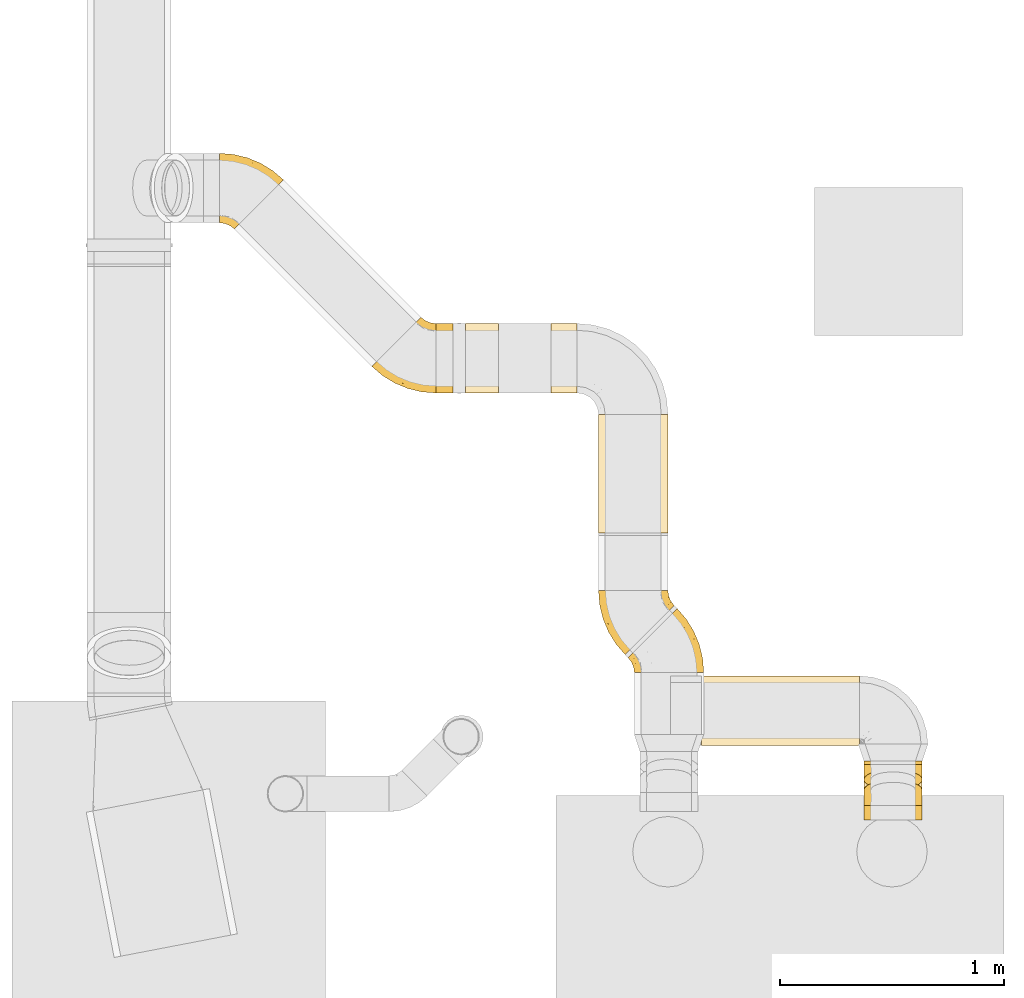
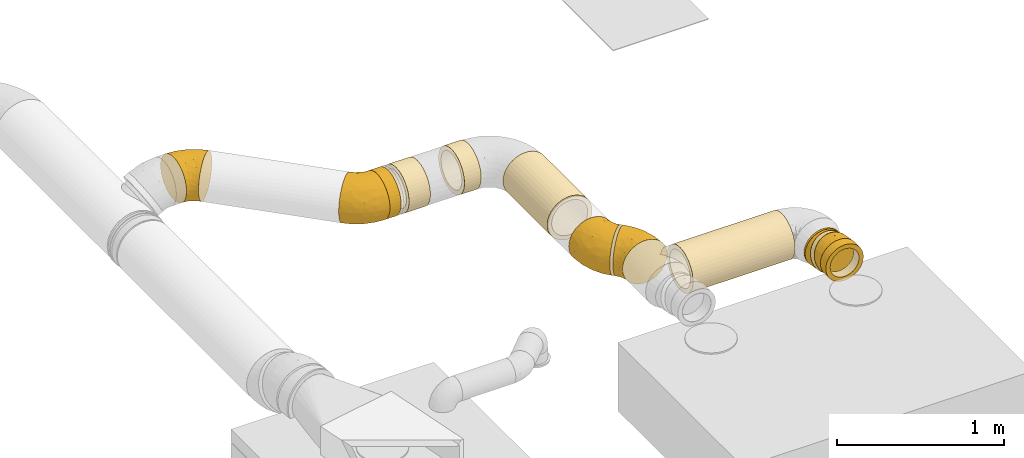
# One storey, part 2 of 21: 14 coverings.
"""IFC2X3 building model written with IfcOpenShell, lengths in millimetres."""

import ifcopenshell
import ifcopenshell.guid

model = None  # the IFC model being written
_history = None  # IfcOwnerHistory: only IFC2X3 demands one
_inside = {}  # id of a spatial element -> (the spatial element, [elements in it])
_under = {}  # id of a project, library or spatial element -> (it, [spatial elements below it])
_declared = {}  # id of a project -> (the project, [libraries it declares])
_typed = {}  # id of a type object -> (the type object, [elements of that type])
_made_of = {}  # id of a material, layer set ... -> (it, [elements and type objects made of it])


def new_model(schema):
    """Start an empty IFC model of exactly this schema.

    Asked for "IFC4X3", IfcOpenShell would pick the latest addendum, in which some entities
    have other attributes; the version numbers below select the first issue.
    IFC2X3 requires an IfcOwnerHistory on every rooted entity: one is made here for all.
    """
    global model, _history
    if schema == "IFC4X3":
        model = ifcopenshell.file(schema_version=(4, 3, 0, 0))
    else:
        model = ifcopenshell.file(schema=schema)
    _inside.clear()
    _under.clear()
    _declared.clear()
    _typed.clear()
    _made_of.clear()
    _history = None
    if model.schema == "IFC2X3":
        org = make("IfcOrganization", Name="unknown")
        user = make(
            "IfcPersonAndOrganization",
            ThePerson=make("IfcPerson", FamilyName="unknown"),
            TheOrganization=org,
        )
        app = make(
            "IfcApplication",
            ApplicationDeveloper=org,
            Version="unknown",
            ApplicationFullName="unknown",
            ApplicationIdentifier="unknown",
        )
        _history = make(
            "IfcOwnerHistory",
            OwningUser=user,
            OwningApplication=app,
            ChangeAction="ADDED",
            CreationDate=0,
        )
    return model


def make(cls, **values):
    """One entity of the class cls with the attributes given. An attribute that is None is left unset."""
    return model.create_entity(
        cls, **{name: value for name, value in values.items() if value is not None}
    )


def entity(cls, *values):
    """Any entity or typed value of the class cls, its attributes in the order of the schema. None: left unset."""
    e = model.create_entity(cls)
    for i, value in enumerate(values):
        if value is not None:
            e[i] = value
    return e


def rooted(cls, **values):
    """An entity with a GlobalId (a new one), such as an element, a storey or a relation."""
    return make(cls, GlobalId=ifcopenshell.guid.new(), OwnerHistory=_history, **values)


def si_unit(unit_type, name, prefix=None):
    """IfcSIUnit, for example si_unit("LENGTHUNIT", "METRE", prefix="MILLI")."""
    return make("IfcSIUnit", UnitType=unit_type, Prefix=prefix, Name=name)


def converted_unit(unit_type, name, factor, base, dimensions=None, offset=None):
    """IfcConversionBasedUnit, such as the inch: factor (a typed value) times the base unit."""
    return make(
        "IfcConversionBasedUnit"
        if offset is None
        else "IfcConversionBasedUnitWithOffset",
        ConversionOffset=offset,
        Dimensions=None
        if dimensions is None
        else entity("IfcDimensionalExponents", *dimensions),
        UnitType=unit_type,
        Name=name,
        ConversionFactor=make(
            "IfcMeasureWithUnit", ValueComponent=factor, UnitComponent=base
        ),
    )


def derived_unit(unit_type, elements):
    """IfcDerivedUnit: a product of units, each with its exponent."""
    return make(
        "IfcDerivedUnit",
        Elements=[
            make("IfcDerivedUnitElement", Unit=unit, Exponent=power)
            for unit, power in elements
        ],
        UnitType=unit_type,
    )


def assignment(units):
    """IfcUnitAssignment: the units of a project."""
    return None if units is None else make("IfcUnitAssignment", Units=units)


def point(xyz):
    """IfcCartesianPoint."""
    return None if xyz is None else make("IfcCartesianPoint", Coordinates=xyz)


def direction(xyz):
    """IfcDirection."""
    return None if xyz is None else make("IfcDirection", DirectionRatios=xyz)


def frame(location, z_axis=None, x_axis=None):
    """IfcAxis2Placement3D, a coordinate frame: its origin and axes. An axis left out is left unset."""
    return make(
        "IfcAxis2Placement3D",
        Location=point(location),
        Axis=direction(z_axis),
        RefDirection=direction(x_axis),
    )


def frame_2d(location, x_axis=None):
    """IfcAxis2Placement2D, a coordinate frame in the plane: its origin and x axis."""
    return make(
        "IfcAxis2Placement2D", Location=point(location), RefDirection=direction(x_axis)
    )


def origin_with_axes():
    """The frame at (0, 0, 0) with the z axis (0, 0, 1) and the x axis (1, 0, 0) written out."""
    return frame((0.0, 0.0, 0.0), z_axis=(0.0, 0.0, 1.0), x_axis=(1.0, 0.0, 0.0))


def origin_2d_with_axis():
    """The frame at (0, 0) in the plane with the x axis (1, 0) written out."""
    return frame_2d((0.0, 0.0), x_axis=(1.0, 0.0))


def place(relative_to, where):
    """IfcLocalPlacement: puts the frame where relative to a parent placement (None: the world)."""
    return make(
        "IfcLocalPlacement", PlacementRelTo=relative_to, RelativePlacement=where
    )


def context(
    kind, dimensions, precision=None, world=None, true_north=None, identifier=None
):
    """IfcGeometricRepresentationContext, for example the 3D "Model" context."""
    return make(
        "IfcGeometricRepresentationContext",
        ContextIdentifier=identifier,
        ContextType=kind,
        CoordinateSpaceDimension=dimensions,
        Precision=precision,
        WorldCoordinateSystem=world,
        TrueNorth=true_north,
    )


def subcontext(parent, identifier, kind, view, scale=None):
    """IfcGeometricRepresentationSubContext, for example "Body" below "Model"."""
    return make(
        "IfcGeometricRepresentationSubContext",
        ContextIdentifier=identifier,
        ContextType=kind,
        ParentContext=parent,
        TargetScale=scale,
        TargetView=view,
    )


def project(units=None, contexts=None):
    """IfcProject with its units and contexts."""
    return rooted(
        "IfcProject",
        Name="project",
        RepresentationContexts=contexts,
        UnitsInContext=assignment(units),
    )


def spatial(cls, under=None, at=None, **own):
    """A site, building, storey or space (cls), placed at a placement, below another one or the project."""
    s = rooted(cls, ObjectPlacement=at, **own)
    if under is not None:
        _under.setdefault(under.id(), (under, []))[1].append(s)
    return s


def profile(cls, at=None, kind="AREA", **sizes):
    """A parametric profile (cls). Its sizes go by their IFC names, for example OverallWidth=200.0."""
    return make(cls, ProfileType=kind, Position=at, **sizes)


def hollow_circle(**sizes):
    """IfcCircleHollowProfileDef."""
    return profile("IfcCircleHollowProfileDef", **sizes)


def extrude(swept, where, along, depth):
    """IfcExtrudedAreaSolid: the profile swept, set in the frame where, extruded along a direction by depth."""
    return make(
        "IfcExtrudedAreaSolid",
        SweptArea=swept,
        Position=where,
        ExtrudedDirection=direction(along),
        Depth=depth,
    )


def faces_of(points, faces, orient=None, outer=None):
    """IfcFace entities. A face is a list of loops; a loop is a list of indices into points, from 0.

    orient and outer hold one flag for each loop. By default every Orientation is true, the
    first loop of a face is its IfcFaceOuterBound and the others are IfcFaceBound.
    """
    made = []
    for i, loops in enumerate(faces):
        bounds = []
        for j, loop in enumerate(loops):
            is_outer = j == 0 if outer is None else outer[i][j]
            bounds.append(
                make(
                    "IfcFaceOuterBound" if is_outer else "IfcFaceBound",
                    Bound=make("IfcPolyLoop", Polygon=[points[k] for k in loop]),
                    Orientation=True if orient is None else orient[i][j],
                )
            )
        made.append(make("IfcFace", Bounds=bounds))
    return made


def open_shell(faces, orient=None, outer=None):
    """The faces of one IfcOpenShell. surface_model builds it on its shared points."""
    return ("IfcOpenShell", faces, orient, outer)


def surface_model(cls, points, shells):
    """IfcFaceBasedSurfaceModel or IfcShellBasedSurfaceModel (cls): surfaces that need not close."""
    shared = [point(p) for p in points]
    made = [make(c, CfsFaces=faces_of(shared, fs, o, b)) for c, fs, o, b in shells]
    if cls == "IfcFaceBasedSurfaceModel":
        return make(cls, FbsmFaces=made)
    return make(cls, SbsmBoundary=made)


def shape(context_of_items, identifier, shape_type, items):
    """IfcShapeRepresentation: the items that make up one representation, for example the "Body"."""
    return make(
        "IfcShapeRepresentation",
        ContextOfItems=context_of_items,
        RepresentationIdentifier=identifier,
        RepresentationType=shape_type,
        Items=items,
    )


def source(mapping_origin, context_of_items, identifier, shape_type, items):
    """IfcRepresentationMap: a shape defined once, which mapped items show again and again."""
    return make(
        "IfcRepresentationMap",
        MappingOrigin=mapping_origin,
        MappedRepresentation=shape(context_of_items, identifier, shape_type, items),
    )


def transform(
    local_origin,
    x_axis=None,
    y_axis=None,
    z_axis=None,
    scale=None,
    scale2=None,
    scale3=None,
    uniform=True,
):
    """IfcCartesianTransformationOperator3D, or its non-uniform kind. x_axis, y_axis, z_axis: its Axis1, 2, 3."""
    if uniform:
        return make(
            "IfcCartesianTransformationOperator3D",
            Axis1=direction(x_axis),
            Axis2=direction(y_axis),
            LocalOrigin=point(local_origin),
            Scale=scale,
            Axis3=direction(z_axis),
        )
    return make(
        "IfcCartesianTransformationOperator3DnonUniform",
        Axis1=direction(x_axis),
        Axis2=direction(y_axis),
        LocalOrigin=point(local_origin),
        Scale=scale,
        Axis3=direction(z_axis),
        Scale2=scale2,
        Scale3=scale3,
    )


def mapped(mapping_source, mapping_target):
    """IfcMappedItem: shows the shape of a source again, moved by a transform."""
    return make(
        "IfcMappedItem", MappingSource=mapping_source, MappingTarget=mapping_target
    )


def made_of(thing, what):
    """Note that an element or type object is made of a material, layer set ...; save() writes the relation."""
    if what is not None:
        _made_of.setdefault(what.id(), (what, []))[1].append(thing)
    return thing


def element(
    cls,
    number,
    at=None,
    inside=None,
    cuts=None,
    type_object=None,
    material=None,
    context=None,
    identifier="Body",
    shape_type=None,
    held_by="IfcProductDefinitionShape",
    body=None,
    shapes=None,
    **own,
):
    """One element of the class cls, such as IfcWall. Its Tag is "e" and its number.

    at: its placement. inside: the storey or other place that contains it. cuts: it is an
    opening in that element (IfcRelVoidsElement). A single representation is given by context,
    identifier, shape_type and body (its items); several are given by shapes. held_by: the class
    of the entity that holds the representations. save() writes the other relations.
    """
    e = rooted(cls, Tag="e%d" % number, ObjectPlacement=at, **own)
    if body is not None:
        shapes = [shape(context, identifier, shape_type, body)]
    if shapes is not None:
        e.Representation = make(held_by, Representations=shapes)
    if inside is not None:
        _inside.setdefault(inside.id(), (inside, []))[1].append(e)
    if cuts is not None:
        rooted(
            "IfcRelVoidsElement", RelatingBuildingElement=cuts, RelatedOpeningElement=e
        )
    if type_object is not None:
        _typed.setdefault(type_object.id(), (type_object, []))[1].append(e)
    return made_of(e, material)


def aggregate(whole, parts):
    """IfcRelAggregates: a whole, such as a stair, and the parts it consists of."""
    return rooted("IfcRelAggregates", RelatingObject=whole, RelatedObjects=parts)


def save(model, path):
    """Write the relations noted so far, then the file.

    IfcRelAggregates (storeys below a building ...), IfcRelContainedInSpatialStructure (elements
    in a storey), IfcRelDefinesByType, IfcRelAssociatesMaterial and IfcRelDeclares: one each for
    every whole, place, type object, material and project.
    """
    for whole, parts in _under.values():
        aggregate(whole, parts)
    for where, things in _inside.values():
        rooted(
            "IfcRelContainedInSpatialStructure",
            RelatedElements=things,
            RelatingStructure=where,
        )
    for kind, things in _typed.values():
        rooted("IfcRelDefinesByType", RelatedObjects=things, RelatingType=kind)
    for what, things in _made_of.values():
        rooted("IfcRelAssociatesMaterial", RelatedObjects=things, RelatingMaterial=what)
    for by, libraries in _declared.values():
        rooted("IfcRelDeclares", RelatingContext=by, RelatedDefinitions=libraries)
    model.write(path)


model = new_model("IFC2X3")

# Units and contexts
model_context = context("Model", 3, precision=0.01, world=frame((0.0, 4.29681676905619e-09, 0.0)), true_north=direction((4.01073788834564e-13, 1.0)))
plan_context = context("Plan", 3, precision=0.01, world=frame((0.0, 4.29681676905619e-09, 0.0)), true_north=direction((4.01073788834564e-13, 1.0)))
body_context = subcontext(model_context, "Body", "Model", "MODEL_VIEW")
ifc_project = project(units=[converted_unit("PLANEANGLEUNIT", "DEGREE", entity("IfcPositiveLengthMeasure", 0.0174532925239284), si_unit("PLANEANGLEUNIT", "RADIAN"), dimensions=[0, 0, 0, 0, 0, 0, 0]), si_unit("AREAUNIT", "SQUARE_METRE"), si_unit("LENGTHUNIT", "METRE", prefix="MILLI"), si_unit("MASSUNIT", "GRAM", prefix="KILO"), si_unit("POWERUNIT", "WATT"), si_unit("PRESSUREUNIT", "PASCAL"), si_unit("FORCEUNIT", "NEWTON", prefix="KILO"), si_unit("ELECTRICVOLTAGEUNIT", "VOLT"), si_unit("ELECTRICCURRENTUNIT", "AMPERE"), si_unit("THERMODYNAMICTEMPERATUREUNIT", "DEGREE_CELSIUS"), si_unit("TIMEUNIT", "SECOND"), si_unit("VOLUMEUNIT", "CUBIC_METRE"), derived_unit("LINEARVELOCITYUNIT", [(si_unit("LENGTHUNIT", "METRE"), 1), (si_unit("TIMEUNIT", "SECOND"), -1)]), derived_unit("VOLUMETRICFLOWRATEUNIT", [(si_unit("VOLUMEUNIT", "CUBIC_METRE"), 1), (si_unit("TIMEUNIT", "SECOND"), -1)]), derived_unit("THERMALTRANSMITTANCEUNIT", [(si_unit("POWERUNIT", "WATT"), 1), (si_unit("THERMODYNAMICTEMPERATUREUNIT", "KELVIN"), -1), (si_unit("AREAUNIT", "SQUARE_METRE"), -1)]), derived_unit("SOUNDPRESSUREUNIT", [(si_unit("PRESSUREUNIT", "PASCAL"), 1)])], contexts=[model_context, plan_context])

# Site, building, storey
site_placement = place(None, frame((0.0, -4.29681676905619e-09, 0.0), z_axis=(0.0, 0.0, 1.0), x_axis=(1.0, 0.0, 0.0)))
site = spatial("IfcSite", under=ifc_project, at=site_placement, Name="ENGM", CompositionType="ELEMENT")
building_placement = place(site_placement, frame((0.0, 4.29681676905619e-09, 0.0), z_axis=(0.0, 0.0, 1.0), x_axis=(1.0, 0.0, 0.0)))
building = spatial("IfcBuilding", under=site, at=building_placement, Name="TI", CompositionType="ELEMENT")
storey_placement = place(building_placement, frame((0.0, 0.0, 210900.0), z_axis=(0.0, 0.0, 1.0), x_axis=(1.0, 0.0, 0.0)))
storey = spatial("IfcBuildingStorey", under=building, at=storey_placement, Name="Nivå F", CompositionType="ELEMENT", Elevation=210900.0)

# Coverings
shared_shape_1 = source(origin_with_axes(), body_context, "Body", "SweptSolid", [
    extrude(hollow_circle(Radius=155.0, WallThickness=30.0, at=origin_2d_with_axis()), frame((0.0, 0.0, 0.0), z_axis=(1.0, 0.0, 0.0), x_axis=(0.0, 1.0, 0.0)), (0.0, 0.0, 1.0), 116.2),
])
covering_1_placement = place(storey_placement, frame((609319.51365, 692765.29135, 2600.0), z_axis=(0.0, 0.0, 1.0), x_axis=(-1.0, 0.0, 0.0)))
element("IfcCovering", 1, at=covering_1_placement, inside=storey, Name="B-EI60", PredefinedType="INSULATION", context=body_context, shape_type="MappedRepresentation", body=[
    mapped(shared_shape_1, transform((0.0, 0.0, 0.0), scale=1.0)),
])
shared_shape_2 = source(origin_with_axes(), body_context, "Body", "SweptSolid", [
    extrude(hollow_circle(Radius=155.0, WallThickness=30.0, at=origin_2d_with_axis()), frame((0.0, 0.0, 0.0), z_axis=(1.0, 0.0, 0.0), x_axis=(0.0, 1.0, 0.0)), (0.0, 0.0, 1.0), 147.7),
])
covering_2_placement = place(storey_placement, frame((608968.28329, 692765.29135, 2600.0), z_axis=(0.0, 0.0, 1.0), x_axis=(-1.0, 0.0, 0.0)))
element("IfcCovering", 2, at=covering_2_placement, inside=storey, Name="B-EI60", PredefinedType="INSULATION", context=body_context, shape_type="MappedRepresentation", body=[
    mapped(shared_shape_2, transform((0.0, 0.0, 0.0), scale=1.0)),
])
shared_shape_3 = source(origin_with_axes(), body_context, "Body", "SweptSolid", [
    extrude(hollow_circle(Radius=155.0, WallThickness=30.0, at=origin_2d_with_axis()), frame((0.0, 0.0, 0.0), z_axis=(1.0, 0.0, 0.0), x_axis=(0.0, 1.0, 0.0)), (0.0, 0.0, 1.0), 76.4),
])
covering_3_placement = place(storey_placement, frame((608765.5993, 692765.29135, 2600.0), z_axis=(0.0, 0.0, 1.0), x_axis=(-1.0, 0.0, 0.0)))
element("IfcCovering", 3, at=covering_3_placement, inside=storey, Name="B-EI60", PredefinedType="INSULATION", context=body_context, shape_type="MappedRepresentation", body=[
    mapped(shared_shape_3, transform((0.0, 0.0, 0.0), scale=1.0)),
])
shared_shape_4 = source(origin_with_axes(), body_context, "Body", "SurfaceModel", [
    surface_model("IfcShellBasedSurfaceModel", [(2.77104, 143.67557, -118.73482), (-10.73522, 157.18183, -99.63399), (-21.69352, 168.14012, -77.50222), (168.14001, -21.6934, -77.50252), (157.1815, -10.73489, -99.63454), (143.67517, 2.77144, -118.73529), (-103.55339, 77.5, -134.23394), (-103.55339, 149.7185, -40.11695), (-103.55339, 134.23394, -77.5), (-103.55339, 109.60155, -109.60155), (-103.55339, -155.0, 0.0), (-103.55339, -134.23394, -77.5), (-103.55339, -149.7185, -40.11695), (-103.55339, -134.23394, 77.5), (-103.55339, -149.7185, 40.11695), (-11.10273, -139.8135, 36.55984), (-40.19743, -150.01378, 0.0), (21.59849, -135.17789, 0.0), (89.23734, -35.04319, 123.1528), (157.18183, -10.73522, 99.63399), (143.67557, 2.77104, 118.73482), (80.31276, -110.85764, 0.0), (134.49964, -77.65188, 0.0), (111.19705, -87.67248, 38.3707), (53.71825, -120.52302, 27.62073), (46.26871, -111.70257, 63.25826), (-17.98746, -115.11685, 91.63906), (-34.16293, -134.24899, 65.5347), (-43.48402, -91.58602, 121.03483), (-23.70701, -54.43227, 140.83726), (-103.55339, -77.5, 134.23394), (128.02586, 18.42075, 134.23249), (61.51925, -24.01316, 138.34676), (-39.90535, -23.56641, 151.89423), (27.83362, -3.89629, 150.79063), (110.70859, 35.73802, 145.65269), (92.25293, 54.19368, 152.64582), (181.16025, -34.71365, 26.91148), (-103.55339, 0.0, 155.0), (-103.55339, -40.11695, 149.7185), (-7.88253, 19.03012, 155.0), (-103.55339, -109.60155, 109.60155), (28.40535, -68.57867, 122.60869), (-54.78081, 4.80368, 155.0), (98.79565, -70.15493, 86.3186), (176.21537, -29.76876, 53.01196), (168.14012, -21.69352, 77.50222), (182.82485, -36.37825, 0.0), (35.33917, 42.1326, 155.0), (73.22331, 73.22331, 155.0), (-28.40586, 131.40554, 109.6018), (-52.01917, 122.33633, 106.80633), (-41.90576, 101.16883, 126.96712), (-103.55339, 40.11695, 149.7185), (-44.51255, 55.36844, 147.82576), (-41.05294, 156.47699, 71.51647), (-10.73489, 157.1815, 99.63454), (-21.6934, 168.14001, 77.50252), (-103.55339, 77.5, 134.23394), (-75.66177, 96.87755, 122.96977), (-74.75569, 126.27704, 94.35801), (-103.55339, 109.60155, 109.60155), (-4.80525, 94.15815, 140.47743), (-103.55339, 155.0, 0.0), (-103.55339, 149.7185, 40.11695), (-89.03094, 154.25034, 23.84232), (-72.52312, 156.23381, 33.96563), (-84.41426, 144.93026, 59.31593), (-61.64069, 148.8143, 65.5067), (-103.55339, 134.23394, 77.5), (-49.87936, 165.29251, 40.11475), (-56.05339, 167.72759, 0.0), (-34.71359, 181.1602, 26.91195), (-0.60462, 58.64229, 151.50989), (54.19402, 92.25259, 152.6459), (35.73819, 110.70842, 145.65278), (-29.7687, 176.21532, 53.0122), (18.42096, 128.02565, 134.23266), (2.77144, 143.67517, 118.73529), (-36.37825, 182.82485, 0.0), (-78.96558, 158.23705, 0.0), (-69.53925, 68.21189, -140.68609), (-103.55339, 40.11695, -149.7185), (-85.39118, 153.92629, -29.20037), (-54.0948, 152.2808, -65.50642), (-80.17201, 145.79219, -59.31592), (-67.54642, 158.31303, -32.77049), (-49.30162, 120.50714, -109.6013), (-20.23959, 85.38958, -140.4773), (-72.88069, 97.41032, -122.96977), (-78.51944, 125.46092, -94.35802), (-54.78081, 4.80368, -155.0), (-103.55339, 0.0, -155.0), (-48.70548, 166.94021, -37.21955), (-34.71365, 181.16025, -26.91148), (-41.96291, 46.96339, -150.31333), (1.20872, 59.04278, -151.6199), (-24.3673, 134.06374, -109.6013), (18.42075, 128.02586, -134.23249), (-29.76876, 176.21537, -53.01196), (35.73802, 110.70859, -145.65269), (54.19368, 92.25293, -152.64582), (-7.88253, 19.03012, -155.0), (73.22331, 73.22331, -155.0), (35.33917, 42.1326, -155.0), (46.26871, -111.70257, -63.25826), (-11.10273, -139.8135, -36.55984), (-22.61331, -132.02787, -65.44057), (-23.70737, -54.43171, -140.83755), (-43.48392, -91.58601, -121.03483), (-103.55339, -77.5, -134.23394), (89.2371, -35.04299, -123.15304), (-39.90538, -23.56641, -151.89423), (181.1602, -34.71359, -26.91195), (111.19724, -87.67226, -38.37106), (27.83357, -3.89616, -150.79066), (128.02565, 18.42096, -134.23266), (61.51932, -24.01279, -138.3469), (28.40528, -68.57825, -122.60901), (52.41387, -119.11231, -36.20848), (-17.98746, -115.11685, -91.63906), (-103.55339, -109.60155, -109.60155), (110.70842, 35.73819, -145.65278), (92.25259, 54.19402, -152.6459), (98.79515, -70.15492, -86.31902), (-103.55339, -40.11695, -149.7185), (176.21532, -29.7687, -53.0122)], [open_shell([[[0, 1, 2]], [[3, 4, 5]], [[6, 7, 8]], [[6, 8, 9]], [[10, 11, 12]], [[13, 10, 14]], [[15, 16, 17]], [[16, 14, 10]], [[18, 19, 20]], [[14, 16, 15]], [[21, 22, 23]], [[15, 24, 25]], [[24, 21, 23]], [[21, 24, 17]], [[25, 26, 27]], [[26, 13, 27]], [[28, 29, 30]], [[18, 31, 32]], [[33, 29, 34]], [[34, 35, 36]], [[22, 37, 23]], [[38, 39, 33]], [[33, 34, 40]], [[26, 41, 13]], [[32, 29, 42]], [[40, 43, 33]], [[15, 27, 14]], [[26, 44, 42]], [[44, 19, 18]], [[23, 45, 44]], [[31, 18, 20]], [[44, 25, 23]], [[44, 45, 46]], [[37, 22, 47]], [[25, 24, 23]], [[29, 28, 42]], [[30, 41, 28]], [[26, 28, 41]], [[48, 36, 49]], [[40, 34, 48]], [[34, 29, 32]], [[44, 46, 19]], [[34, 36, 48]], [[18, 32, 42]], [[28, 26, 42]], [[44, 26, 25]], [[32, 31, 35]], [[39, 30, 29]], [[44, 18, 42]], [[37, 45, 23]], [[17, 24, 15]], [[34, 32, 35]], [[38, 33, 43]], [[29, 33, 39]], [[14, 27, 13]], [[25, 27, 15]], [[50, 51, 52]], [[53, 38, 43]], [[53, 43, 54]], [[54, 43, 40]], [[55, 56, 57]], [[58, 53, 54]], [[59, 60, 61]], [[52, 54, 62]], [[63, 64, 65]], [[66, 67, 68]], [[51, 68, 60]], [[64, 69, 67]], [[70, 71, 66]], [[60, 68, 67]], [[72, 71, 70]], [[66, 65, 67]], [[73, 40, 48]], [[54, 59, 58]], [[73, 74, 75]], [[76, 55, 57]], [[77, 50, 62]], [[50, 77, 78]], [[75, 62, 73]], [[74, 48, 49]], [[73, 62, 54]], [[61, 58, 59]], [[60, 67, 69]], [[69, 61, 60]], [[50, 78, 56]], [[72, 70, 76]], [[70, 55, 76]], [[56, 55, 50]], [[71, 72, 79]], [[66, 71, 80]], [[59, 52, 51]], [[68, 55, 70]], [[52, 59, 54]], [[62, 50, 52]], [[65, 66, 80]], [[75, 77, 62]], [[55, 68, 51]], [[70, 66, 68]], [[63, 65, 80]], [[67, 65, 64]], [[40, 73, 54]], [[74, 73, 48]], [[51, 50, 55]], [[59, 51, 60]], [[81, 82, 6]], [[63, 80, 83]], [[84, 85, 86]], [[85, 83, 86]], [[87, 88, 89]], [[85, 8, 7]], [[80, 71, 86]], [[84, 90, 85]], [[91, 92, 82]], [[93, 71, 94]], [[81, 88, 95]], [[89, 81, 6]], [[88, 96, 95]], [[9, 90, 89]], [[86, 83, 80]], [[9, 89, 6]], [[97, 0, 98]], [[84, 97, 87]], [[2, 84, 99]], [[82, 81, 95]], [[0, 97, 1]], [[98, 88, 97]], [[99, 84, 93]], [[2, 1, 97]], [[100, 101, 96]], [[8, 90, 9]], [[84, 2, 97]], [[84, 86, 93]], [[97, 88, 87]], [[88, 98, 100]], [[91, 95, 102]], [[102, 95, 96]], [[101, 103, 104]], [[90, 84, 87]], [[89, 90, 87]], [[96, 101, 104]], [[91, 82, 95]], [[85, 90, 8]], [[99, 93, 94]], [[94, 71, 79]], [[88, 81, 89]], [[71, 93, 86]], [[96, 88, 100]], [[102, 96, 104]], [[85, 7, 83]], [[63, 83, 7]], [[105, 106, 107]], [[108, 109, 110]], [[111, 5, 4]], [[112, 91, 102]], [[113, 22, 114]], [[16, 12, 106]], [[115, 112, 102]], [[91, 112, 92]], [[116, 111, 117]], [[117, 118, 108]], [[16, 10, 12]], [[17, 119, 21]], [[114, 21, 119]], [[105, 107, 120]], [[121, 110, 109]], [[114, 119, 105]], [[17, 16, 106]], [[11, 121, 120]], [[106, 105, 119]], [[21, 114, 22]], [[117, 122, 116]], [[120, 109, 118]], [[104, 103, 123]], [[4, 124, 111]], [[109, 120, 121]], [[117, 115, 122]], [[117, 111, 118]], [[110, 125, 108]], [[115, 117, 108]], [[111, 116, 5]], [[108, 125, 112]], [[4, 3, 124]], [[126, 113, 114]], [[124, 3, 126]], [[115, 102, 104]], [[106, 119, 17]], [[113, 47, 22]], [[124, 118, 111]], [[120, 124, 105]], [[114, 105, 124]], [[109, 108, 118]], [[124, 126, 114]], [[123, 115, 104]], [[123, 122, 115]], [[124, 120, 118]], [[107, 12, 11]], [[108, 112, 115]], [[92, 112, 125]], [[12, 107, 106]], [[11, 120, 107]], [[45, 19, 46]], [[19, 31, 20]], [[69, 64, 63]], [[61, 53, 58]], [[53, 61, 38]], [[7, 69, 63]], [[69, 7, 6]], [[30, 38, 6]], [[69, 38, 61]], [[6, 38, 69]], [[6, 82, 30]], [[92, 125, 110]], [[92, 110, 11]], [[92, 11, 30]], [[11, 110, 121]], [[30, 13, 41]], [[39, 38, 30]], [[10, 13, 30]], [[11, 10, 30]], [[30, 82, 92]], [[76, 57, 56]], [[3, 113, 126]], [[76, 94, 72]], [[94, 79, 72]], [[98, 0, 100]], [[2, 123, 103]], [[49, 36, 35]], [[37, 47, 113]], [[2, 77, 123]], [[76, 78, 2]], [[78, 77, 2]], [[56, 78, 76]], [[77, 75, 123]], [[94, 76, 99]], [[76, 2, 99]], [[100, 103, 101]], [[100, 0, 2]], [[2, 103, 100]], [[123, 75, 74]], [[49, 35, 19]], [[19, 35, 31]], [[45, 49, 19]], [[45, 123, 49]], [[123, 45, 37]], [[113, 5, 116]], [[116, 122, 113]], [[37, 122, 123]], [[3, 5, 113]], [[37, 113, 122]], [[49, 123, 74]]])]),
])
for number, where, z_axis, x_axis in (
    (4, (608585.5993, 692765.29135, 2600.0), (0.0, 0.0, 1.0), (0.707106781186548, -0.707106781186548, 0.0)),
    (5, (607825.5993, 693525.29135, 2600.0), (0.0, 0.0, 1.0), (-0.707106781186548, 0.707106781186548, 0.0)),
    (6, (609569.51365, 691625.29135, 2600.0), (0.0, 0.0, 1.0), (0.0, -1.0, 0.0)),
    (7, (609729.51365, 691465.29135, 2600.0), (0.0, 0.0, 1.0), (0.0, 1.0, 0.0)),
):
    element("IfcCovering", number, at=place(storey_placement, frame(where, z_axis=z_axis, x_axis=x_axis)), inside=storey, Name="B-EI60", PredefinedType="INSULATION", context=body_context, shape_type="MappedRepresentation", body=[
        mapped(shared_shape_4, transform((0.0, 0.0, 0.0), scale=1.0)),
    ])
shared_shape_5 = source(origin_with_axes(), body_context, "Body", "SweptSolid", [
    extrude(hollow_circle(Radius=155.0, WallThickness=30.0, at=origin_2d_with_axis()), frame((0.0, 0.0, 0.0), z_axis=(1.0, 0.0, 0.0), x_axis=(0.0, 1.0, 0.0)), (0.0, 0.0, 1.0), 705.0),
])
covering_4_placement = place(storey_placement, frame((609874.51365, 691192.49978, 2600.0), z_axis=(0.0, 0.0, 1.0), x_axis=(1.0, 0.0, 0.0)))
element("IfcCovering", 8, at=covering_4_placement, inside=storey, Name="B-EI60", PredefinedType="INSULATION", context=body_context, shape_type="MappedRepresentation", body=[
    mapped(shared_shape_5, transform((0.0, 0.0, 0.0), scale=1.0)),
])
shared_shape_6 = source(origin_with_axes(), body_context, "Body", "SweptSolid", [
    extrude(hollow_circle(Radius=155.0, WallThickness=30.0, at=origin_2d_with_axis()), frame((0.0, 0.0, 0.0), z_axis=(1.0, 0.0, 0.0), x_axis=(0.0, 1.0, 0.0)), (0.0, 0.0, 1.0), 530.0),
])
covering_5_placement = place(storey_placement, frame((609569.51365, 692515.29135, 2600.0), z_axis=(0.0, 0.0, 1.0), x_axis=(0.0, -1.0, 0.0)))
element("IfcCovering", 9, at=covering_5_placement, inside=storey, Name="B-EI60", PredefinedType="INSULATION", context=body_context, shape_type="MappedRepresentation", body=[
    mapped(shared_shape_6, transform((0.0, 0.0, 0.0), scale=1.0)),
])
shared_shape_7 = source(origin_with_axes(), body_context, "Body", "SweptSolid", [
    extrude(hollow_circle(Radius=130.0, WallThickness=30.0, at=origin_2d_with_axis()), frame((0.0, 0.0, 0.0), z_axis=(1.0, 0.0, 0.0), x_axis=(0.0, 1.0, 0.0)), (0.0, 0.0, 1.0), 49.5),
])
covering_6_placement = place(storey_placement, frame((610729.51365, 690884.62655, 2612.06148), z_axis=(0.0, 0.342019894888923, 0.939692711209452), x_axis=(0.0, -0.939692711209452, 0.342019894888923)))
element("IfcCovering", 10, at=covering_6_placement, inside=storey, Name="B-EI60", PredefinedType="INSULATION", context=body_context, shape_type="MappedRepresentation", body=[
    mapped(shared_shape_7, transform((0.0, 0.0, 0.0), scale=1.0)),
])
shared_shape_8 = source(origin_with_axes(), body_context, "Body", "SurfaceModel", [
    surface_model("IfcShellBasedSurfaceModel", [(-10.77631, 132.71679, -20.3414), (-11.32399, 134.22151, 0.0), (-10.77661, 132.71761, 20.33591), (7.00324, 83.86787, 105.17026), (12.95186, 67.52419, 115.8291), (19.39751, 49.81488, 123.636), (7.00479, 83.86363, -105.17353), (1.69949, 98.43981, -91.92586), (12.95355, 67.51954, -115.83162), (64.57778, -74.31686, 91.92586), (69.10898, -86.76624, 76.41477), (72.75452, -96.78228, 59.02218), (72.75538, -96.78464, -59.01724), (69.1101, -86.76932, -76.41026), (64.57913, -74.32057, -91.92191), (77.05387, -108.59466, -20.33591), (75.42522, -104.11996, -40.17112), (-35.2654, 91.92389, -91.92389), (-35.2654, 125.57036, -33.64648), (-35.2654, 112.5833, -65.0), (-35.2654, -125.57036, 33.64648), (-35.2654, -130.0, 0.0), (22.0385, -124.98656, 0.0), (-35.2654, -91.92389, 91.92389), (-35.2654, -112.5833, 65.0), (59.27248, -59.74068, 105.17353), (-35.2654, -65.0, 112.5833), (40.09392, -7.04803, 128.39958), (-0.53576, 3.03845, 130.0), (-35.2654, -33.64648, 125.57036), (-35.2654, 0.0, 130.0), (33.13863, 12.06148, 130.0), (46.87796, -25.68702, 123.6377), (77.05357, -108.59384, 20.3414), (75.42464, -104.11836, 40.17634), (53.32372, -43.39659, 115.83162), (77.60125, -110.09857, 0.0), (-35.2654, 33.64648, 125.57036), (-35.2654, 65.0, 112.5833), (26.18146, 31.17614, 128.3987), (-35.2654, 91.92389, 91.92389), (-35.2654, 130.0, 0.0), (-35.2654, 125.57036, 33.64648), (-23.11002, 131.06346, 0.0), (-35.2654, 112.5833, 65.0), (-2.83284, 110.89227, 76.41026), (-6.47812, 120.9076, 59.01724), (1.69814, 98.44353, 91.92191), (-9.14795, 128.24291, 40.17112), (-9.14737, 128.24132, -40.17634), (-6.47725, 120.90523, -59.02218), (-2.83171, 110.88919, -76.41477), (-35.2654, 0.0, -130.0), (-35.2654, 33.64648, -125.57036), (-0.53576, 3.03845, -130.0), (-35.2654, 65.0, -112.5833), (26.18334, 31.17098, -128.39958), (19.3993, 49.80998, -123.6377), (33.13863, 12.06148, -130.0), (46.87975, -25.69193, -123.636), (-35.2654, -65.0, -112.5833), (-35.2654, -33.64648, -125.57036), (40.0958, -7.05319, -128.3987), (-35.2654, -91.92389, -91.92389), (59.27402, -59.74492, -105.17026), (-35.2654, -125.57036, -33.64648), (-35.2654, -112.5833, -65.0), (53.32541, -43.40123, -115.8291)], [open_shell([[[0, 1, 2]], [[3, 4, 5]], [[6, 7, 8]], [[9, 10, 11]], [[12, 13, 14]], [[12, 15, 16]], [[17, 18, 19]], [[20, 21, 22]], [[23, 24, 10]], [[20, 11, 24]], [[25, 26, 23]], [[27, 28, 29]], [[28, 30, 29]], [[27, 31, 28]], [[32, 29, 26]], [[22, 33, 20]], [[10, 24, 11]], [[20, 33, 34]], [[34, 11, 20]], [[9, 23, 10]], [[29, 32, 27]], [[25, 35, 26]], [[32, 26, 35]], [[23, 9, 25]], [[22, 36, 33]], [[37, 30, 28]], [[38, 4, 3]], [[37, 5, 38]], [[39, 37, 28]], [[38, 3, 40]], [[41, 42, 43]], [[44, 40, 45]], [[46, 42, 44]], [[42, 2, 43]], [[47, 40, 3]], [[45, 40, 47]], [[38, 5, 4]], [[37, 39, 5]], [[28, 31, 39]], [[48, 42, 46]], [[43, 2, 1]], [[48, 2, 42]], [[46, 44, 45]], [[18, 41, 43]], [[19, 49, 50]], [[18, 49, 19]], [[0, 18, 43]], [[17, 19, 51]], [[52, 53, 54]], [[55, 17, 6]], [[8, 53, 55]], [[53, 56, 54]], [[50, 51, 19]], [[0, 49, 18]], [[43, 1, 0]], [[7, 6, 17]], [[57, 53, 8]], [[54, 56, 58]], [[57, 56, 53]], [[8, 55, 6]], [[17, 51, 7]], [[59, 60, 61]], [[61, 54, 62]], [[52, 54, 61]], [[63, 60, 64]], [[21, 65, 22]], [[12, 65, 66]], [[63, 13, 66]], [[65, 15, 22]], [[54, 58, 62]], [[59, 67, 60]], [[64, 14, 63]], [[64, 60, 67]], [[13, 63, 14]], [[16, 65, 12]], [[15, 36, 22]], [[65, 16, 15]], [[66, 13, 12]], [[59, 61, 62]], [[48, 46, 5]], [[2, 48, 49]], [[5, 46, 45]], [[5, 49, 48]], [[3, 5, 47]], [[45, 47, 5]], [[5, 62, 49]], [[56, 51, 49]], [[49, 51, 50]], [[7, 51, 56]], [[0, 2, 49]], [[7, 57, 8]], [[56, 57, 7]], [[62, 56, 49]], [[56, 62, 58]], [[39, 62, 5]], [[27, 62, 31]], [[62, 27, 35]], [[35, 27, 32]], [[25, 9, 35]], [[9, 34, 62]], [[34, 9, 11]], [[35, 9, 62]], [[62, 34, 33]], [[14, 64, 59]], [[14, 59, 62]], [[59, 64, 67]], [[14, 62, 36]], [[36, 15, 12]], [[12, 14, 36]], [[62, 33, 36]], [[31, 62, 39]], [[17, 41, 18]], [[55, 53, 41]], [[55, 41, 17]], [[41, 53, 30]], [[44, 37, 40]], [[37, 44, 42]], [[40, 37, 38]], [[42, 41, 37]], [[41, 30, 37]], [[53, 61, 30]], [[29, 30, 61]], [[60, 29, 61]], [[66, 21, 60]], [[66, 60, 63]], [[21, 66, 65]], [[29, 23, 26]], [[23, 29, 21]], [[24, 21, 20]], [[21, 24, 23]], [[29, 60, 21]], [[61, 53, 52]]])]),
])
covering_7_placement = place(storey_placement, frame((610729.51365, 690917.76518, 2600.0), z_axis=(-1.0, 0.0, 0.0), x_axis=(0.0, -1.0, 0.0)))
element("IfcCovering", 11, at=covering_7_placement, inside=storey, Name="B-EI60", PredefinedType="INSULATION", context=body_context, shape_type="MappedRepresentation", body=[
    mapped(shared_shape_8, transform((0.0, 0.0, 0.0), scale=1.0)),
])
shared_shape_9 = source(origin_with_axes(), body_context, "Body", "SurfaceModel", [
    surface_model("IfcShellBasedSurfaceModel", [(64.57778, -74.31686, 91.92586), (69.10898, -86.76624, 76.41477), (72.75452, -96.78228, 59.02218), (75.42464, -104.11836, 40.17634), (77.05357, -108.59384, 20.3414), (64.57913, -74.32057, -91.92191), (59.27402, -59.74492, -105.17026), (53.32541, -43.40123, -115.8291), (-35.2654, 91.92389, -91.92389), (-35.2654, 125.57036, -33.64648), (-35.2654, 112.5833, -65.0), (-35.2654, -125.57036, 33.64648), (-35.2654, -130.0, 0.0), (22.0385, -124.98656, 0.0), (-35.2654, -91.92389, 91.92389), (-35.2654, -112.5833, 65.0), (59.27248, -59.74068, 105.17353), (-35.2654, -65.0, 112.5833), (40.09392, -7.04803, 128.39958), (-0.53576, 3.03845, 130.0), (-35.2654, -33.64648, 125.57036), (-35.2654, 0.0, 130.0), (33.13863, 12.06148, 130.0), (46.87796, -25.68702, 123.6377), (53.32372, -43.39659, 115.83162), (77.60125, -110.09857, 0.0), (-35.2654, 33.64648, 125.57036), (-35.2654, 65.0, 112.5833), (12.95186, 67.52419, 115.8291), (7.00324, 83.86787, 105.17026), (19.39751, 49.81488, 123.636), (26.18146, 31.17614, 128.3987), (-35.2654, 91.92389, 91.92389), (-35.2654, 130.0, 0.0), (-35.2654, 125.57036, 33.64648), (-23.11002, 131.06346, 0.0), (-35.2654, 112.5833, 65.0), (-2.83284, 110.89227, 76.41026), (-6.47812, 120.9076, 59.01724), (-10.77661, 132.71761, 20.33591), (1.69814, 98.44353, 91.92191), (-9.14795, 128.24291, 40.17112), (-11.32399, 134.22151, 0.0), (-9.14737, 128.24132, -40.17634), (-6.47725, 120.90523, -59.02218), (-10.77631, 132.71679, -20.3414), (-2.83171, 110.88919, -76.41477), (-35.2654, 0.0, -130.0), (-35.2654, 33.64648, -125.57036), (-0.53576, 3.03845, -130.0), (-35.2654, 65.0, -112.5833), (7.00479, 83.86363, -105.17353), (12.95355, 67.51954, -115.83162), (26.18334, 31.17098, -128.39958), (1.69949, 98.43981, -91.92586), (19.3993, 49.80998, -123.6377), (33.13863, 12.06148, -130.0), (46.87975, -25.69193, -123.636), (-35.2654, -65.0, -112.5833), (-35.2654, -33.64648, -125.57036), (40.0958, -7.05319, -128.3987), (-35.2654, -91.92389, -91.92389), (-35.2654, -125.57036, -33.64648), (72.75538, -96.78464, -59.01724), (-35.2654, -112.5833, -65.0), (69.1101, -86.76932, -76.41026), (77.05387, -108.59466, -20.33591), (75.42522, -104.11996, -40.17112)], [open_shell([[[0, 1, 2]], [[2, 3, 4]], [[5, 6, 7]], [[8, 9, 10]], [[11, 12, 13]], [[14, 15, 1]], [[11, 2, 15]], [[16, 17, 14]], [[18, 19, 20]], [[19, 21, 20]], [[18, 22, 19]], [[23, 20, 17]], [[13, 4, 11]], [[1, 15, 2]], [[11, 4, 3]], [[3, 2, 11]], [[0, 14, 1]], [[20, 23, 18]], [[16, 24, 17]], [[23, 17, 24]], [[14, 0, 16]], [[13, 25, 4]], [[26, 21, 19]], [[27, 28, 29]], [[26, 30, 27]], [[31, 26, 19]], [[27, 29, 32]], [[33, 34, 35]], [[36, 32, 37]], [[38, 34, 36]], [[34, 39, 35]], [[40, 32, 29]], [[37, 32, 40]], [[27, 30, 28]], [[26, 31, 30]], [[19, 22, 31]], [[41, 34, 38]], [[35, 39, 42]], [[41, 39, 34]], [[38, 36, 37]], [[9, 33, 35]], [[10, 43, 44]], [[9, 43, 10]], [[45, 9, 35]], [[8, 10, 46]], [[47, 48, 49]], [[50, 8, 51]], [[52, 48, 50]], [[48, 53, 49]], [[44, 46, 10]], [[45, 43, 9]], [[35, 42, 45]], [[54, 51, 8]], [[55, 48, 52]], [[49, 53, 56]], [[55, 53, 48]], [[52, 50, 51]], [[8, 46, 54]], [[57, 58, 59]], [[59, 49, 60]], [[47, 49, 59]], [[61, 58, 6]], [[12, 62, 13]], [[63, 62, 64]], [[61, 65, 64]], [[62, 66, 13]], [[49, 56, 60]], [[57, 7, 58]], [[6, 5, 61]], [[6, 58, 7]], [[65, 61, 5]], [[67, 62, 63]], [[66, 25, 13]], [[62, 67, 66]], [[64, 65, 63]], [[57, 59, 60]], [[22, 60, 31]], [[8, 33, 9]], [[50, 48, 33]], [[50, 33, 8]], [[33, 48, 21]], [[36, 26, 32]], [[26, 36, 34]], [[32, 26, 27]], [[34, 33, 26]], [[33, 21, 26]], [[48, 59, 21]], [[20, 21, 59]], [[58, 20, 59]], [[64, 12, 58]], [[64, 58, 61]], [[12, 64, 62]], [[20, 14, 17]], [[14, 20, 12]], [[15, 12, 11]], [[12, 15, 14]], [[20, 58, 12]], [[59, 48, 47]], [[38, 37, 41]], [[42, 39, 41]], [[41, 43, 42]], [[41, 37, 28]], [[41, 30, 56]], [[29, 28, 37]], [[28, 30, 41]], [[29, 37, 40]], [[60, 56, 30]], [[44, 43, 41]], [[44, 56, 46]], [[54, 46, 51]], [[43, 45, 42]], [[51, 46, 52]], [[46, 53, 55]], [[52, 46, 55]], [[56, 53, 46]], [[56, 44, 41]], [[30, 31, 60]], [[4, 22, 18]], [[4, 23, 24]], [[18, 23, 4]], [[4, 24, 16]], [[2, 4, 0]], [[0, 4, 16]], [[22, 4, 60]], [[65, 5, 57]], [[57, 5, 7]], [[65, 57, 60]], [[66, 67, 4]], [[65, 67, 63]], [[65, 4, 67]], [[65, 60, 4]], [[66, 4, 25]]])]),
])
covering_8_placement = place(storey_placement, frame((610729.51365, 690805.00207, 2641.04242000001), z_axis=(1.0, 0.0, 0.0), x_axis=(0.0, -0.939692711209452, 0.342019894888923)))
element("IfcCovering", 12, at=covering_8_placement, inside=storey, Name="B-EI60", PredefinedType="INSULATION", context=body_context, shape_type="MappedRepresentation", body=[
    mapped(shared_shape_9, transform((0.0, 0.0, 0.0), scale=1.0)),
])
shared_shape_10 = source(origin_with_axes(), body_context, "Body", "SweptSolid", [
    extrude(hollow_circle(Radius=130.0, WallThickness=30.0, at=origin_2d_with_axis()), frame((0.0, 0.0, 0.0), z_axis=(1.0, 0.0, 0.0), x_axis=(0.0, 1.0, 0.0)), (0.0, 0.0, 1.0), 14.5),
])
covering_9_placement = place(storey_placement, frame((610729.51365, 690967.49978, 2600.0), z_axis=(0.0, 0.0, 1.0), x_axis=(0.0, -1.0, 0.0)))
element("IfcCovering", 13, at=covering_9_placement, inside=storey, Name="B-EI60", PredefinedType="INSULATION", context=body_context, shape_type="MappedRepresentation", body=[
    mapped(shared_shape_10, transform((0.0, 0.0, 0.0), scale=1.0)),
])
shared_shape_11 = source(origin_with_axes(), body_context, "Body", "SweptSolid", [
    extrude(hollow_circle(Radius=130.0, WallThickness=30.0, at=origin_2d_with_axis()), frame((0.0, 0.0, 0.0), z_axis=(1.0, 0.0, 0.0), x_axis=(0.0, 1.0, 0.0)), (0.0, 0.0, 1.0), 64.7),
])
covering_10_placement = place(storey_placement, frame((610729.51365, 690769.73667, 2641.04242000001), z_axis=(0.0, 0.0, 1.0), x_axis=(0.0, -1.0, 0.0)))
element("IfcCovering", 14, at=covering_10_placement, inside=storey, Name="B-EI60", PredefinedType="INSULATION", context=body_context, shape_type="MappedRepresentation", body=[
    mapped(shared_shape_11, transform((0.0, 0.0, 0.0), scale=1.0)),
])

save(model, "model.ifc")
